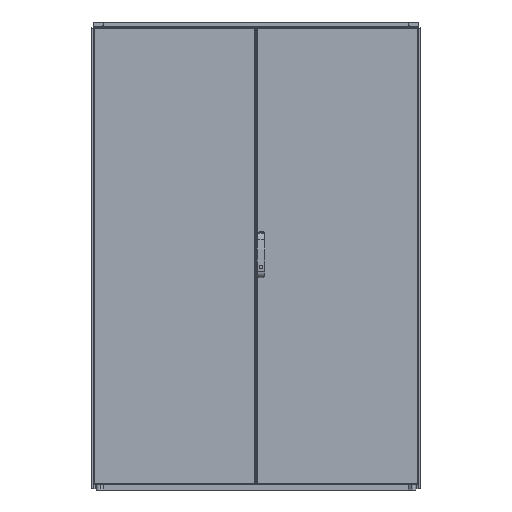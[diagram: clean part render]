
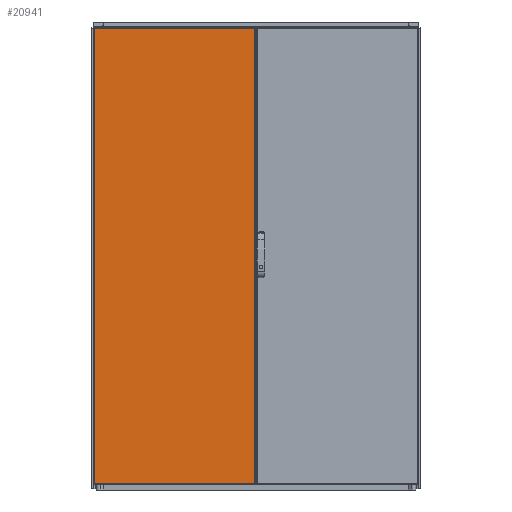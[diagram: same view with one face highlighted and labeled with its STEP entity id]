
A CAD part, front view. The second image highlights one B-rep face of the part: STEP entity #20941.
In plain terms, the highlighted planar face has unit normal (0, -1, 0).
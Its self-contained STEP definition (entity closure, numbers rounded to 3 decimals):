
#5489=ORIENTED_EDGE('',*,*,#9692,.T.);
#5490=ORIENTED_EDGE('',*,*,#9693,.T.);
#5491=ORIENTED_EDGE('',*,*,#9694,.T.);
#5492=ORIENTED_EDGE('',*,*,#9695,.T.);
#9692=EDGE_CURVE('',#12077,#12078,#14115,.F.);
#9693=EDGE_CURVE('',#12078,#12079,#14116,.F.);
#9694=EDGE_CURVE('',#12079,#12080,#14117,.F.);
#9695=EDGE_CURVE('',#12080,#12077,#14118,.F.);
#12077=VERTEX_POINT('',#34214);
#12078=VERTEX_POINT('',#34215);
#12079=VERTEX_POINT('',#34217);
#12080=VERTEX_POINT('',#34219);
#14115=LINE('',#34213,#16184);
#14116=LINE('',#34216,#16185);
#14117=LINE('',#34218,#16186);
#14118=LINE('',#34220,#16187);
#16184=VECTOR('',#27461,1000.);
#16185=VECTOR('',#27462,1000.);
#16186=VECTOR('',#27463,1000.);
#16187=VECTOR('',#27464,1000.);
#17711=EDGE_LOOP('',(#5489,#5490,#5491,#5492));
#19014=FACE_BOUND('',#17711,.T.);
#19942=PLANE('',#22785);
#20941=ADVANCED_FACE('',(#19014),#19942,.F.);
#22785=AXIS2_PLACEMENT_3D('',#34212,#27459,#27460);
#27459=DIRECTION('',(0.,1.,0.));
#27460=DIRECTION('',(0.,0.,1.));
#27461=DIRECTION('',(1.,0.,0.));
#27462=DIRECTION('',(0.,0.,1.));
#27463=DIRECTION('',(-1.,0.,0.));
#27464=DIRECTION('',(0.,0.,-1.));
#34212=CARTESIAN_POINT('',(0.,0.,0.));
#34213=CARTESIAN_POINT('',(0.,0.,977.));
#34214=CARTESIAN_POINT('',(344.5,0.,977.));
#34215=CARTESIAN_POINT('',(-344.5,0.,977.));
#34216=CARTESIAN_POINT('',(-344.5,0.,0.));
#34217=CARTESIAN_POINT('',(-344.5,0.,-977.));
#34218=CARTESIAN_POINT('',(0.,0.,-977.));
#34219=CARTESIAN_POINT('',(344.5,0.,-977.));
#34220=CARTESIAN_POINT('',(344.5,0.,0.));
